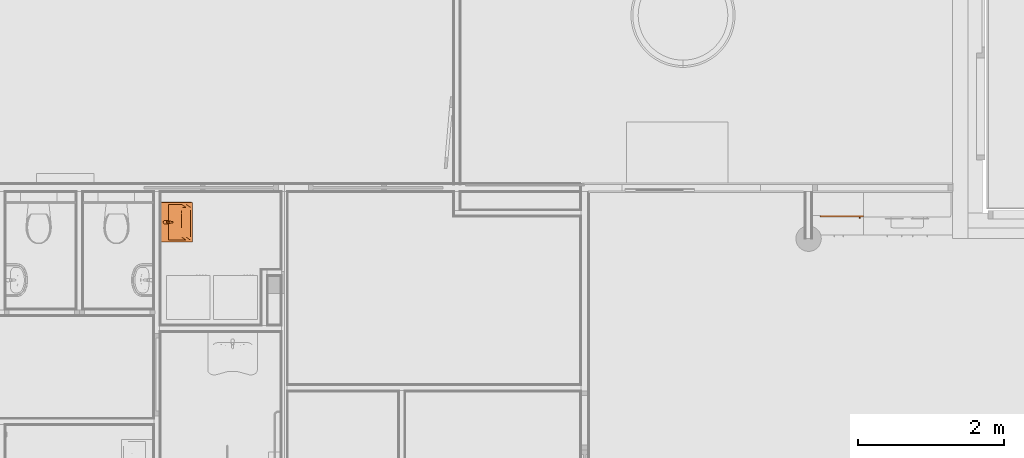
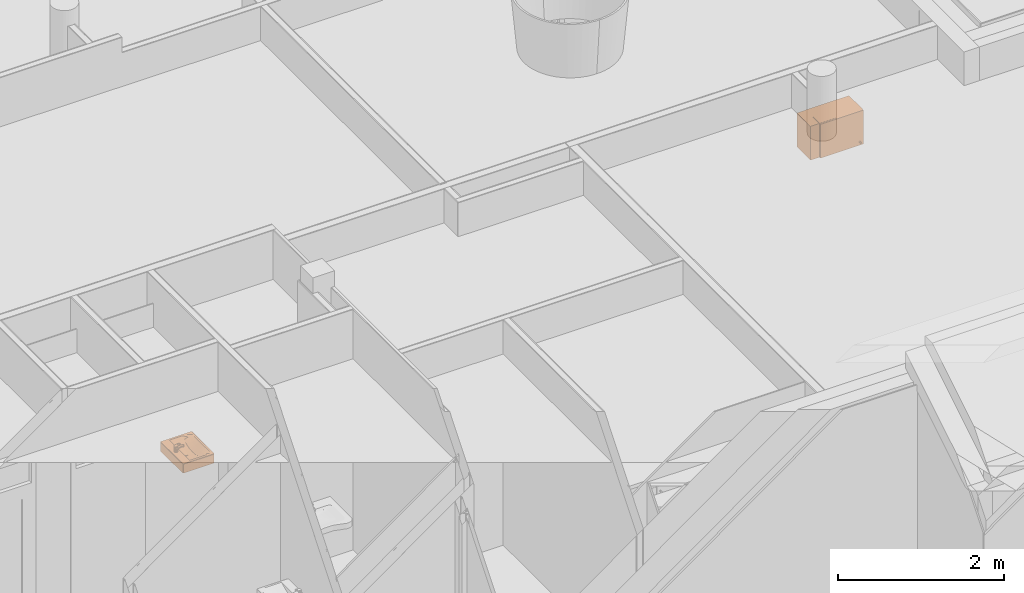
# One storey, part 165 of 167: 2 proxies.
"""IFC2X3 building model written with IfcOpenShell, lengths in millimetres."""

from ifc_helpers import new_model, entity, si_unit, converted_unit, derived_unit, money_unit, direction, frame, origin_with_axes, place, context, subcontext, project, spatial, open_shell, faceted_brep, surface_model, type_object, element, save


model = new_model("IFC2X3")

# Units and contexts
model_context = context("Model", 3, precision=0.01, world=origin_with_axes(), true_north=direction((0.0, 1.0)))
plan_context = context("Plan", 3, precision=0.01, world=origin_with_axes(), true_north=direction((0.0, 1.0)))
body_context = subcontext(model_context, "Body", "Model", "MODEL_VIEW")
ifc_project = project(units=[si_unit("LENGTHUNIT", "METRE", prefix="MILLI"), si_unit("AREAUNIT", "SQUARE_METRE"), si_unit("VOLUMEUNIT", "CUBIC_METRE"), converted_unit("PLANEANGLEUNIT", "DEGREE", entity("IfcPlaneAngleMeasure", 0.0174532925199), si_unit("PLANEANGLEUNIT", "RADIAN"), dimensions=[0, 0, 0, 0, 0, 0, 0]), si_unit("SOLIDANGLEUNIT", "STERADIAN"), money_unit("EUR"), converted_unit("TIMEUNIT", "Year", entity("IfcTimeMeasure", 31556926.0), si_unit("TIMEUNIT", "SECOND"), dimensions=[0, 0, 1, 0, 0, 0, 0]), si_unit("MASSUNIT", "GRAM", prefix="KILO"), si_unit("THERMODYNAMICTEMPERATUREUNIT", "DEGREE_CELSIUS"), si_unit("LUMINOUSINTENSITYUNIT", "LUMEN"), si_unit("ENERGYUNIT", "JOULE", prefix="MEGA"), derived_unit("THERMALCONDUCTANCEUNIT", [(si_unit("POWERUNIT", "WATT"), 1), (si_unit("LENGTHUNIT", "METRE"), -1), (si_unit("THERMODYNAMICTEMPERATUREUNIT", "KELVIN"), -1)]), derived_unit("SPECIFICHEATCAPACITYUNIT", [(si_unit("ENERGYUNIT", "JOULE"), 1), (si_unit("MASSUNIT", "GRAM", prefix="KILO"), -1), (si_unit("THERMODYNAMICTEMPERATUREUNIT", "KELVIN"), -1)]), derived_unit("MASSDENSITYUNIT", [(si_unit("MASSUNIT", "GRAM", prefix="KILO"), 1), (si_unit("VOLUMEUNIT", "CUBIC_METRE"), -1)])], contexts=[model_context, plan_context])

# Site, building, storey
site_placement = place(None, origin_with_axes())
site = spatial("IfcSite", under=ifc_project, at=site_placement, Name="Site", CompositionType="ELEMENT")
building_placement = place(site_placement, origin_with_axes())
building = spatial("IfcBuilding", under=site, at=building_placement, Name="Naam gebouw", CompositionType="ELEMENT")
storey_placement = place(building_placement, origin_with_axes())
storey = spatial("IfcBuildingStorey", under=building, at=storey_placement, Name="Begane grond", CompositionType="ELEMENT", Elevation=0.0)

# Proxies
building_element_proxy_type_1 = type_object("IfcBuildingElementProxyType", Name="Wasbak 24", PredefinedType="NOTDEFINED")
proxy_1_placement = place(storey_placement, frame((27100.0, 36825.9506673, 90.0), z_axis=(0.0, 0.0, 1.0), x_axis=(0.0, 1.0, 0.0)))
element("IfcBuildingElementProxy", 1, at=proxy_1_placement, inside=storey, type_object=building_element_proxy_type_1, Name="__Object-x", context=body_context, shape_type="SurfaceModel", body=[
    faceted_brep([(260.0, -440.0, 865.0), (-260.0, -440.0, 865.0), (-267.5, -437.990381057, 865.0), (-272.990381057, -432.5, 865.0), (-275.0, -425.0, 865.0), (-275.0, -15.0, 865.0), (-272.990381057, -7.5, 865.0), (-267.5, -2.00961894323, 865.0), (-260.0, 0.0, 865.0), (260.0, 0.0, 865.0), (267.5, -2.00961894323, 865.0), (272.990381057, -7.5, 865.0), (275.0, -15.0, 865.0), (275.0, -425.0, 865.0), (272.990381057, -432.5, 865.0), (267.5, -437.990381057, 865.0), (-245.0, -410.0, 865.0), (245.0, -410.0, 865.0), (245.0, -110.0, 865.0), (-245.0, -110.0, 865.0), (259.999999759, -440.00000039, 995.0), (-259.999999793, -440.00000039, 995.0), (-267.500000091, -437.990381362, 995.0), (-272.990381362, -432.500000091, 995.0), (-275.00000039, -424.999999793, 995.0), (-275.00000039, -14.9999996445, 995.0), (-272.990381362, -7.50000027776, 995.0), (-267.500000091, -2.00961900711, 995.0), (-259.999999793, 2.02655670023e-08, 995.0), (259.999999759, 2.02655670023e-08, 995.0), (267.500000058, -2.00961900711, 995.0), (272.990381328, -7.50000027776, 995.0), (275.000000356, -14.9999996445, 995.0), (275.000000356, -424.999999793, 995.0), (272.990381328, -432.500000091, 995.0), (267.500000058, -437.990381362, 995.0), (-245.0, -410.0, 999.999999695), (245.0, -410.0, 999.999999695), (245.0, -110.0, 999.999999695), (-245.0, -110.0, 999.999999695), (259.977570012, -439.829629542, 996.294095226), (-259.977570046, -439.829629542, 996.294095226), (-267.411809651, -437.837631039, 996.294095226), (-272.837631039, -432.411809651, 996.294095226), (-274.829629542, -424.977570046, 996.294095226), (-274.829629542, -15.0224293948, 996.294095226), (-272.837631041, -7.58819072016, 996.294095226), (-267.411809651, -2.16236933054, 996.294095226), (-259.977570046, -0.170370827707, 996.294095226), (259.977570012, -0.170370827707, 996.294095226), (267.411809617, -2.16236933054, 996.294095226), (272.837631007, -7.58819072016, 996.294095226), (274.829629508, -15.0224293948, 996.294095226), (274.829629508, -424.977570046, 996.294095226), (272.837631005, -432.411809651, 996.294095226), (267.411809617, -437.837631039, 996.294095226), (-259.34173768, -4.99999712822, 999.999999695), (-264.911811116, -6.49249381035, 999.999999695), (-268.507506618, -10.0881893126, 999.999999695), (-270.000003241, -15.6582618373, 999.999999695), (-270.000003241, -424.34173768, 999.999999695), (-268.507506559, -429.911811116, 999.999999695), (-264.911811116, -433.507506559, 999.999999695), (-259.34173768, -435.000003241, 999.999999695), (259.341737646, -435.000003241, 999.999999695), (264.911811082, -433.507506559, 999.999999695), (268.507506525, -429.911811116, 999.999999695), (270.000003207, -424.34173768, 999.999999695), (270.000003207, -15.6582618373, 999.999999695), (268.507506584, -10.0881893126, 999.999999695), (264.911811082, -6.49249381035, 999.999999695), (259.341737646, -4.99999712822, 999.999999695), (259.807199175, -438.535534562, 998.535533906), (-259.807199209, -438.535534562, 998.535533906), (-266.741936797, -436.677377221, 998.535533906), (-271.677377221, -431.741936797, 998.535533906), (-273.535534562, -424.807199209, 998.535533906), (-273.535534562, -15.1928002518, 998.535533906), (-271.677377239, -8.2580635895, 998.535533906), (-266.741936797, -3.32262314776, 998.535533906), (-259.807199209, -1.46446580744, 998.535533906), (259.807199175, -1.46446580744, 998.535533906), (266.741936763, -3.32262314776, 998.535533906), (271.677377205, -8.2580635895, 998.535533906), (273.535534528, -15.1928002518, 998.535533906), (273.535534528, -424.807199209, 998.535533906), (271.677377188, -431.741936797, 998.535533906), (266.741936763, -436.677377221, 998.535533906), (-265.581682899, -5.33224184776, 999.829629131), (-259.512108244, -3.70590421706, 999.829629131), (-269.667758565, -9.41831751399, 999.829629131), (-271.294096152, -15.4878912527, 999.829629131), (-271.294096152, -424.512108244, 999.829629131), (-269.667758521, -430.581682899, 999.829629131), (-265.581682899, -434.667758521, 999.829629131), (-259.512108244, -436.294096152, 999.829629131), (259.51210821, -436.294096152, 999.829629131), (265.581682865, -434.667758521, 999.829629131), (269.667758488, -430.581682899, 999.829629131), (271.294096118, -424.512108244, 999.829629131), (271.294096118, -15.4878912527, 999.829629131), (269.667758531, -9.41831751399, 999.829629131), (265.581682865, -5.33224184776, 999.829629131), (259.51210821, -3.70590421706, 999.829629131)], [[[0, 1, 2, 3, 4, 5, 6, 7, 8, 9, 10, 11, 12, 13, 14, 15], [16, 17, 18, 19]], [[0, 20, 21, 1]], [[1, 21, 22, 2]], [[2, 22, 23, 3]], [[3, 23, 24, 4]], [[4, 24, 25, 5]], [[5, 25, 26, 6]], [[6, 26, 27, 7]], [[7, 27, 28, 8]], [[8, 28, 29, 9]], [[9, 29, 30, 10]], [[10, 30, 31, 11]], [[11, 31, 32, 12]], [[12, 32, 33, 13]], [[13, 33, 34, 14]], [[14, 34, 35, 15]], [[15, 35, 20, 0]], [[36, 37, 17, 16]], [[37, 38, 18, 17]], [[38, 39, 19, 18]], [[39, 36, 16, 19]], [[20, 40, 41, 21]], [[21, 41, 42, 22]], [[22, 42, 43, 23]], [[23, 43, 44, 24]], [[24, 44, 45, 25]], [[25, 45, 46, 26]], [[26, 46, 47, 27]], [[27, 47, 48, 28]], [[28, 48, 49, 29]], [[29, 49, 50, 30]], [[30, 50, 51, 31]], [[31, 51, 52, 32]], [[32, 52, 53, 33]], [[33, 53, 54, 34]], [[34, 54, 55, 35]], [[35, 55, 40, 20]], [[56, 57, 58, 59, 60, 61, 62, 63, 64, 65, 66, 67, 68, 69, 70, 71], [36, 39, 38, 37]], [[40, 72, 73, 41]], [[41, 73, 74, 42]], [[42, 74, 75, 43]], [[43, 75, 76, 44]], [[44, 76, 77, 45]], [[45, 77, 78, 46]], [[46, 78, 79, 47]], [[47, 79, 80, 48]], [[48, 80, 81, 49]], [[49, 81, 82, 50]], [[50, 82, 83, 51]], [[51, 83, 84, 52]], [[52, 84, 85, 53]], [[53, 85, 86, 54]], [[54, 86, 87, 55]], [[55, 87, 72, 40]], [[88, 57, 56, 89]], [[90, 58, 57, 88]], [[91, 59, 58, 90]], [[92, 60, 59, 91]], [[93, 61, 60, 92]], [[94, 62, 61, 93]], [[95, 63, 62, 94]], [[96, 64, 63, 95]], [[97, 65, 64, 96]], [[98, 66, 65, 97]], [[99, 67, 66, 98]], [[100, 68, 67, 99]], [[101, 69, 68, 100]], [[102, 70, 69, 101]], [[103, 71, 70, 102]], [[89, 56, 71, 103]], [[72, 96, 95, 73]], [[73, 95, 94, 74]], [[74, 94, 93, 75]], [[75, 93, 92, 76]], [[76, 92, 91, 77]], [[77, 91, 90, 78]], [[78, 90, 88, 79]], [[79, 88, 89, 80]], [[80, 89, 103, 81]], [[81, 103, 102, 82]], [[82, 102, 101, 83]], [[83, 101, 100, 84]], [[84, 100, 99, 85]], [[85, 99, 98, 86]], [[86, 98, 97, 87]], [[87, 97, 96, 72]]]),
    faceted_brep([(-245.0, -410.0, 865.0), (-245.0, -110.0, 865.0), (245.0, -110.0, 865.0), (245.0, -410.0, 865.0), (12.5, -221.641635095, 865.0), (21.6506350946, -212.491, 865.0), (25.0, -199.991, 865.0), (21.6506350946, -187.491, 865.0), (12.5, -178.340364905, 865.0), (0.0, -174.991, 865.0), (-12.5, -178.340364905, 865.0), (-21.6506350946, -187.491, 865.0), (-25.0, -199.991, 865.0), (-21.6506350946, -212.491, 865.0), (-12.5, -221.641635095, 865.0), (0.0, -224.991, 865.0), (-245.0, -290.0, 1000.0), (-245.0, -230.0, 1000.0), (-245.0, -170.0, 1000.0), (-245.0, -110.0, 1000.0), (-245.0, -410.0, 1000.0), (-245.0, -350.0, 1000.0), (122.5, -110.0, 922.129168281), (163.333333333, -110.0, 940.432026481), (204.166666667, -110.0, 965.689615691), (245.0, -110.0, 1000.0), (-204.166666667, -110.0, 965.689615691), (-163.333333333, -110.0, 940.432026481), (-122.5, -110.0, 922.129168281), (-81.6666666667, -110.0, 909.657569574), (-40.8333333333, -110.0, 902.389246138), (0.0, -110.0, 900.0), (40.8333333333, -110.0, 902.389246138), (81.6666666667, -110.0, 909.657569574), (245.0, -230.0, 1000.0), (245.0, -290.0, 1000.0), (245.0, -350.0, 1000.0), (245.0, -410.0, 1000.0), (245.0, -170.0, 1000.0), (-122.5, -410.0, 1000.0), (-163.333333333, -410.0, 1000.0), (-204.166666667, -410.0, 1000.0), (204.166666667, -410.0, 1000.0), (163.333333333, -410.0, 1000.0), (122.5, -410.0, 1000.0), (81.6666666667, -410.0, 1000.0), (40.8333333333, -410.0, 1000.0), (0.0, -410.0, 1000.0), (-40.8333333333, -410.0, 1000.0), (-81.6666666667, -410.0, 1000.0), (12.5, -221.641635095, 900.731401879), (21.6506350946, -212.491, 901.266825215), (25.0, -199.991, 901.462803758), (21.6506350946, -187.491, 901.266825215), (12.5, -178.340364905, 900.731401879), (0.0, -174.991, 900.0), (-12.5, -178.340364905, 900.731401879), (-21.6506350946, -187.491, 901.266825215), (-25.0, -199.991, 901.462803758), (-21.6506350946, -212.491, 901.266825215), (-12.5, -221.641635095, 900.731401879), (0.0, -224.991, 900.0), (-204.166666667, -230.0, 965.689615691), (-204.166666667, -170.0, 965.689615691), (-204.166666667, -350.0, 986.166287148), (-204.166666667, -290.0, 970.594758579), (163.333333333, -170.0, 940.432026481), (122.5, -170.0, 922.129168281), (204.166666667, -170.0, 965.689615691), (-163.333333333, -170.0, 940.432026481), (-122.5, -170.0, 922.129168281), (-81.6666666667, -170.0, 909.657569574), (-40.8333333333, -170.0, 902.389246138), (0.0, -170.0, 900.0), (40.8333333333, -170.0, 902.389246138), (81.6666666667, -170.0, 909.657569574), (204.166666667, -290.0, 970.594758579), (204.166666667, -350.0, 986.166287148), (204.166666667, -230.0, 965.689615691), (-122.5, -350.0, 966.539843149), (-163.333333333, -350.0, 975.056802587), (163.333333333, -350.0, 975.056802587), (122.5, -350.0, 966.539843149), (81.6666666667, -350.0, 960.520155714), (40.8333333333, -350.0, 956.933224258), (0.0, -350.0, 955.741663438), (-40.8333333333, -350.0, 956.933224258), (-81.6666666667, -350.0, 960.520155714), (0.0, -230.0, 900.0), (40.8333333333, -230.0, 902.389246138), (-40.8333333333, -230.0, 902.389246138), (-163.333333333, -230.0, 940.432026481), (163.333333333, -230.0, 940.432026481), (122.5, -230.0, 922.129168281), (-122.5, -230.0, 922.129168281), (-81.6666666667, -230.0, 909.657569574), (81.6666666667, -230.0, 909.657569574), (0.0, -290.0, 912.025576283), (-40.8333333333, -290.0, 914.19632473), (-163.333333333, -290.0, 948.375008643), (122.5, -290.0, 932.026603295), (163.333333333, -290.0, 948.375008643), (-122.5, -290.0, 932.026603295), (-81.6666666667, -290.0, 920.783680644), (40.8333333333, -290.0, 914.19632473), (81.6666666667, -290.0, 920.783680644)], [[[0, 1, 2, 3], [4, 5, 6, 7, 8, 9, 10, 11, 12, 13, 14, 15]], [[16, 17, 18, 19, 1, 0, 20, 21]], [[22, 23, 24, 25, 2, 1, 19, 26, 27, 28, 29, 30, 31, 32, 33]], [[34, 35, 36, 37, 3, 2, 25, 38]], [[39, 40, 41, 20, 0, 3, 37, 42, 43, 44, 45, 46, 47, 48, 49]], [[50, 51, 5, 4]], [[51, 52, 6, 5]], [[52, 53, 7, 6]], [[53, 54, 8, 7]], [[54, 55, 9, 8]], [[55, 56, 10, 9]], [[56, 57, 11, 10]], [[57, 58, 12, 11]], [[58, 59, 13, 12]], [[59, 60, 14, 13]], [[60, 61, 15, 14]], [[61, 50, 4, 15]], [[16, 62, 17]], [[62, 63, 18, 17]], [[63, 26, 19, 18]], [[20, 64, 21]], [[21, 65, 16]], [[66, 23, 22, 67]], [[68, 24, 23, 66]], [[38, 25, 24, 68]], [[69, 27, 26, 63]], [[70, 28, 27, 69]], [[71, 29, 28, 70]], [[72, 30, 29, 71]], [[73, 31, 30, 72]], [[74, 32, 31, 73]], [[75, 33, 32, 74]], [[67, 22, 33, 75]], [[76, 35, 34]], [[77, 36, 35]], [[42, 37, 36]], [[34, 38, 68, 78]], [[40, 39, 79]], [[41, 40, 80]], [[20, 41, 64]], [[43, 42, 77]], [[44, 43, 81]], [[45, 44, 82]], [[46, 45, 83]], [[47, 46, 84]], [[48, 47, 85]], [[49, 48, 86]], [[39, 49, 87]], [[54, 53, 52, 51, 50, 61, 88, 89, 74, 73, 55]], [[56, 55, 73, 72, 90, 88, 61, 60, 59, 58, 57]], [[16, 65, 62]], [[91, 69, 63, 62]], [[21, 64, 65]], [[92, 66, 67, 93]], [[78, 68, 66, 92]], [[94, 70, 69, 91]], [[95, 71, 70, 94]], [[90, 72, 71, 95]], [[96, 75, 74, 89]], [[93, 67, 75, 96]], [[77, 35, 76]], [[76, 34, 78]], [[42, 36, 77]], [[39, 87, 79]], [[40, 79, 80]], [[41, 80, 64]], [[43, 77, 81]], [[44, 81, 82]], [[45, 82, 83]], [[46, 83, 84]], [[47, 84, 85]], [[48, 85, 86]], [[49, 86, 87]], [[97, 89, 88]], [[98, 88, 90]], [[65, 91, 62]], [[64, 99, 65]], [[100, 92, 93]], [[101, 78, 92]], [[99, 94, 91]], [[102, 95, 94]], [[103, 90, 95]], [[104, 96, 89]], [[105, 93, 96]], [[81, 77, 76]], [[101, 76, 78]], [[79, 87, 103]], [[80, 79, 102]], [[64, 80, 99]], [[82, 81, 101]], [[83, 82, 100]], [[84, 83, 105]], [[85, 84, 104]], [[86, 85, 97]], [[87, 86, 98]], [[97, 104, 89]], [[98, 97, 88]], [[103, 98, 90]], [[65, 99, 91]], [[100, 101, 92]], [[105, 100, 93]], [[99, 102, 94]], [[102, 103, 95]], [[104, 105, 96]], [[81, 76, 101]], [[87, 98, 103]], [[79, 103, 102]], [[80, 102, 99]], [[82, 101, 100]], [[83, 100, 105]], [[84, 105, 104]], [[85, 104, 97]], [[86, 97, 98]]]),
    faceted_brep([(21.6506350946, -212.491, 900.0), (12.5, -221.641635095, 900.0), (0.0, -224.991, 900.0), (-12.5, -221.641635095, 900.0), (-21.6506350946, -212.491, 900.0), (-25.0, -199.991, 900.0), (-21.6506350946, -187.491, 900.0), (-12.5, -178.340364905, 900.0), (0.0, -174.991, 900.0), (12.5, -178.340364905, 900.0), (21.6506350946, -187.491, 900.0), (25.0, -199.991, 900.0), (21.6506350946, -212.491, 905.0), (12.5, -221.641635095, 905.0), (0.0, -224.991, 905.0), (-12.5, -221.641635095, 905.0), (-21.6506350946, -212.491, 905.0), (-25.0, -199.991, 905.0), (-21.6506350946, -187.491, 905.0), (-12.5, -178.340364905, 905.0), (0.0, -174.991, 905.0), (12.5, -178.340364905, 905.0), (21.6506350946, -187.491, 905.0), (25.0, -199.991, 905.0)], [[[0, 1, 2, 3, 4, 5, 6, 7, 8, 9, 10, 11]], [[1, 0, 12, 13]], [[2, 1, 13, 14]], [[3, 2, 14, 15]], [[4, 3, 15, 16]], [[5, 4, 16, 17]], [[6, 5, 17, 18]], [[7, 6, 18, 19]], [[8, 7, 19, 20]], [[9, 8, 20, 21]], [[10, 9, 21, 22]], [[11, 10, 22, 23]], [[0, 11, 23, 12]], [[12, 23, 22, 21, 20, 19, 18, 17, 16, 15, 14, 13]]]),
    surface_model("IfcShellBasedSurfaceModel", [(0.0, -199.991, 907.0), (0.0, -187.369094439, 906.49757372), (-6.31095278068, -189.06010914, 906.49757372), (6.31095278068, -189.06010914, 906.49757372), (0.0, -174.991, 905.0), (-12.5, -178.340364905, 905.0), (-10.9308908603, -193.680047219, 906.49757372), (10.9308908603, -193.680047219, 906.49757372), (12.5, -178.340364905, 905.0), (-21.6506350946, -187.491, 905.0), (-12.6219055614, -199.991, 906.49757372), (12.6219055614, -199.991, 906.49757372), (21.6506350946, -187.491, 905.0), (-25.0, -199.991, 905.0), (-10.9308908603, -206.301952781, 906.49757372), (10.9308908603, -206.301952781, 906.49757372), (25.0, -199.991, 905.0), (-21.6506350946, -212.491, 905.0), (-6.31095278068, -210.92189086, 906.49757372), (6.31095278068, -210.92189086, 906.49757372), (21.6506350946, -212.491, 905.0), (-12.5, -221.641635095, 905.0), (0.0, -212.612905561, 906.49757372), (12.5, -221.641635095, 905.0), (0.0, -224.991, 905.0)], [open_shell([[[0, 1, 2]], [[0, 3, 1]], [[2, 1, 4, 5]], [[0, 2, 6]], [[0, 7, 3]], [[1, 3, 8, 4]], [[6, 2, 5, 9]], [[0, 6, 10]], [[0, 11, 7]], [[3, 7, 12, 8]], [[10, 6, 9, 13]], [[0, 10, 14]], [[0, 15, 11]], [[7, 11, 16, 12]], [[14, 10, 13, 17]], [[0, 14, 18]], [[0, 19, 15]], [[11, 15, 20, 16]], [[18, 14, 17, 21]], [[0, 18, 22]], [[0, 22, 19]], [[15, 19, 23, 20]], [[22, 18, 21, 24]], [[19, 22, 24, 23]]])]),
    faceted_brep([(12.5, -38.3493649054, 1000.0), (0.0, -35.0, 1000.0), (0.0, -38.7980769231, 1075.96153846), (10.5873227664, -41.6622190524, 1076.50708934), (21.6506350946, -47.5, 1000.0), (25.0, -60.0, 1000.0), (21.6506350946, -72.5, 1000.0), (12.5, -81.6506350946, 1000.0), (0.0, -85.0, 1000.0), (-12.5, -81.6506350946, 1000.0), (-21.6506350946, -72.5, 1000.0), (-25.0, -60.0, 1000.0), (-21.6506350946, -47.5, 1000.0), (-12.5, -38.3493649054, 1000.0), (-10.5873227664, -41.6622190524, 1076.50708934), (-18.2735503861, -49.4497607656, 1077.99043062), (-21.0, -60.0, 1080.0), (-18.1003413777, -70.4502369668, 1081.99052133), (-10.4141059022, -78.037760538, 1083.43576391), (0.0, -80.8018867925, 1083.96226415), (10.4141059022, -78.037760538, 1083.43576391), (18.1003413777, -70.4502369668, 1081.99052133), (21.0, -60.0, 1080.0), (18.2735503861, -49.4497607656, 1077.99043062)], [[[0, 1, 2, 3]], [[0, 4, 5, 6, 7, 8, 9, 10, 11, 12, 13, 1]], [[1, 13, 14, 2]], [[3, 2, 14, 15, 16, 17, 18, 19, 20, 21, 22, 23]], [[4, 0, 3, 23]], [[5, 4, 23, 22]], [[6, 5, 22, 21]], [[7, 6, 21, 20]], [[8, 7, 20, 19]], [[9, 8, 19, 18]], [[10, 9, 18, 17]], [[11, 10, 17, 16]], [[12, 11, 16, 15]], [[13, 12, 15, 14]]]),
    faceted_brep([(9.0, -163.0, 1035.0), (7.79422863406, -158.5, 1035.0), (7.79422863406, -158.5, 1045.0), (9.0, -163.0, 1045.0), (7.79422863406, -167.5, 1035.0), (4.5, -170.794228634, 1035.0), (0.0, -172.0, 1035.0), (-4.5, -170.794228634, 1035.0), (-7.79422863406, -167.5, 1035.0), (-9.0, -163.0, 1035.0), (-7.79422863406, -158.5, 1035.0), (-4.5, -155.205771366, 1035.0), (0.0, -154.0, 1035.0), (4.5, -155.205771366, 1035.0), (4.5, -155.205771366, 1045.0), (0.0, -154.0, 1045.0), (-4.5, -155.205771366, 1045.0), (-7.79422863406, -158.5, 1045.0), (-9.0, -163.0, 1045.0), (-7.79422863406, -167.5, 1045.0), (-4.5, -170.794228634, 1045.0), (0.0, -172.0, 1045.0), (4.5, -170.794228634, 1045.0), (7.79422863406, -167.5, 1045.0)], [[[0, 1, 2, 3]], [[0, 4, 5, 6, 7, 8, 9, 10, 11, 12, 13, 1]], [[1, 13, 14, 2]], [[3, 2, 14, 15, 16, 17, 18, 19, 20, 21, 22, 23]], [[4, 0, 3, 23]], [[5, 4, 23, 22]], [[6, 5, 22, 21]], [[7, 6, 21, 20]], [[8, 7, 20, 19]], [[9, 8, 19, 18]], [[10, 9, 18, 17]], [[11, 10, 17, 16]], [[12, 11, 16, 15]], [[13, 12, 15, 14]]]),
    faceted_brep([(-12.8717176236, -39.7436961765, 1060.0), (-21.727805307, -49.8067946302, 1060.0), (-23.8054, -63.0499, 1060.0), (-10.911990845, -164.388371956, 1060.0), (-9.02887546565, -169.283194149, 1060.0), (-5.09332449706, -172.749726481, 1060.0), (3.62679860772e-05, -173.99996004, 1060.0), (5.09338878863, -172.749692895, 1060.0), (9.02891689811, -169.283134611, 1060.0), (10.912, -164.3883, 1060.0), (23.8053997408, -63.0499020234, 1060.0), (21.7278061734, -49.806796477, 1060.0), (12.8717193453, -39.7436972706, 1060.0), (1.01998896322e-06, -36.000021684, 1060.0), (11.0, -40.9474411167, 1060.0), (19.0525588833, -49.0, 1060.0), (22.0, -60.0, 1060.0), (19.0525588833, -71.0, 1060.0), (11.0, -79.0525588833, 1060.0), (0.0, -82.0, 1060.0), (-11.0, -79.0525588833, 1060.0), (-19.0525588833, -71.0, 1060.0), (-22.0, -60.0, 1060.0), (-19.0525588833, -49.0, 1060.0), (-11.0, -40.9474411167, 1060.0), (0.0, -38.0, 1060.0), (-21.727805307, -49.8067946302, 1045.0), (-12.8717176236, -39.7436961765, 1045.0), (-23.8054, -63.0499, 1045.0), (-10.911990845, -164.388371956, 1045.0), (-9.02887546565, -169.283194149, 1045.0), (-5.09332449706, -172.749726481, 1045.0), (3.62679860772e-05, -173.99996004, 1045.0), (5.09338878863, -172.749692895, 1045.0), (9.02891689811, -169.283134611, 1045.0), (10.912, -164.3883, 1045.0), (23.8053997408, -63.0499020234, 1045.0), (21.7278061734, -49.806796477, 1045.0), (12.8717193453, -39.7436972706, 1045.0), (1.01998896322e-06, -36.000021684, 1045.0), (11.375, -40.2979220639, 1045.0), (19.7020779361, -48.625, 1045.0), (22.75, -60.0, 1045.0), (19.7020779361, -71.375, 1045.0), (11.375, -79.7020779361, 1045.0), (0.0, -82.75, 1045.0), (-11.375, -79.7020779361, 1045.0), (-19.7020779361, -71.375, 1045.0), (-22.75, -60.0, 1045.0), (-19.7020779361, -48.625, 1045.0), (-11.375, -40.2979220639, 1045.0), (0.0, -37.25, 1045.0)], [[[0, 1, 2, 3, 4, 5, 6, 7, 8, 9, 10, 11, 12, 13], [14, 15, 16, 17, 18, 19, 20, 21, 22, 23, 24, 25]], [[26, 1, 0, 27]], [[28, 2, 1, 26]], [[29, 3, 2, 28]], [[30, 4, 3, 29]], [[31, 5, 4, 30]], [[32, 6, 5, 31]], [[33, 7, 6, 32]], [[34, 8, 7, 33]], [[35, 9, 8, 34]], [[36, 10, 9, 35]], [[37, 11, 10, 36]], [[38, 12, 11, 37]], [[39, 13, 12, 38]], [[27, 0, 13, 39]], [[40, 41, 15, 14]], [[41, 42, 16, 15]], [[42, 43, 17, 16]], [[43, 44, 18, 17]], [[44, 45, 19, 18]], [[20, 19, 45, 46]], [[21, 20, 46, 47]], [[22, 21, 47, 48]], [[23, 22, 48, 49]], [[24, 23, 49, 50]], [[50, 51, 25, 24]], [[51, 40, 14, 25]], [[32, 31, 30, 29, 28, 26, 27, 39, 38, 37, 36, 35, 34, 33], [44, 43, 42, 41, 40, 51, 50, 49, 48, 47, 46, 45]]]),
    faceted_brep([(23.893, -61.6925693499, 1080.32239416), (21.2964214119, -49.225281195, 1077.94767261), (21.2964214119, -48.4768327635, 1081.87702687), (23.893, -60.9441209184, 1084.25174843), (20.9459364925, -101.836702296, 1087.96889568), (17.6631391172, -111.514366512, 1089.81226029), (10.0614352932, -118.463746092, 1091.13595164), (-0.000442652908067, -120.98561192, 1091.61630703), (-10.0622123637, -118.463329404, 1091.13587227), (-17.6636179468, -111.513635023, 1089.81212096), (-20.946, -101.835834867, 1087.96873045), (-23.893020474, -61.6922904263, 1080.32234103), (-21.2962910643, -49.2250325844, 1077.94762525), (-12.4716815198, -39.9088025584, 1076.17310525), (0.000142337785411, -36.4680354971, 1075.51772105), (12.4719245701, -39.9089481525, 1076.17313298), (14.0, -85.540802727, 1084.86491481), (-14.0, -85.540802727, 1084.86491481), (-14.0, -100.356432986, 1087.68693962), (-12.124355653, -107.232802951, 1088.99672437), (-7.0, -112.266655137, 1089.95555336), (0.0, -114.109172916, 1090.30650913), (7.0, -112.266655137, 1089.95555336), (12.124355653, -107.232802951, 1088.99672437), (14.0, -100.356432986, 1087.68693962), (12.4719245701, -39.1604997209, 1080.10248725), (0.000142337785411, -35.7195870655, 1079.44707531), (-12.4716815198, -39.1603541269, 1080.10245951), (-21.2962910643, -48.4765841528, 1081.87697952), (-23.893020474, -60.9438419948, 1084.2516953), (-20.946, -101.087386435, 1091.89808472), (-17.6636179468, -110.765186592, 1093.74147522), (-10.0622123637, -117.714880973, 1095.06522653), (-0.000442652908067, -120.237163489, 1095.5456613), (10.0614352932, -117.71529766, 1095.0653059), (17.6631391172, -110.76591808, 1093.74161455), (20.9459364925, -101.088253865, 1091.89824994), (14.0, -84.7923542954, 1088.79426907), (14.0, -99.6079845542, 1091.61629388), (12.124355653, -106.484354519, 1092.92607864), (7.0, -111.518206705, 1093.88490763), (0.0, -113.360724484, 1094.23586339), (-7.0, -111.518206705, 1093.88490763), (-12.124355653, -106.484354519, 1092.92607864), (-14.0, -99.6079845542, 1091.61629388), (-14.0, -84.7923542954, 1088.79426907)], [[[0, 1, 2, 3]], [[0, 4, 5, 6, 7, 8, 9, 10, 11, 12, 13, 14, 15, 1], [16, 17, 18, 19, 20, 21, 22, 23, 24]], [[1, 15, 25, 2]], [[3, 2, 25, 26, 27, 28, 29, 30, 31, 32, 33, 34, 35, 36], [37, 38, 39, 40, 41, 42, 43, 44, 45]], [[4, 0, 3, 36]], [[5, 4, 36, 35]], [[6, 5, 35, 34]], [[7, 6, 34, 33]], [[8, 7, 33, 32]], [[9, 8, 32, 31]], [[10, 9, 31, 30]], [[11, 10, 30, 29]], [[12, 11, 29, 28]], [[13, 12, 28, 27]], [[14, 13, 27, 26]], [[15, 14, 26, 25]], [[17, 16, 37, 45]], [[18, 17, 45, 44]], [[19, 18, 44, 43]], [[20, 19, 43, 42]], [[21, 20, 42, 41]], [[22, 21, 41, 40]], [[23, 22, 40, 39]], [[24, 23, 39, 38]], [[16, 24, 38, 37]]]),
])
building_element_proxy_type_2 = type_object("IfcBuildingElementProxyType", Name="Kast wand 1D 24", PredefinedType="NOTDEFINED")
proxy_2_placement = place(storey_placement, frame((36028.3441359, 36900.000006, 700.07308756), z_axis=(0.0, 0.0, 1.0), x_axis=(1.0, 0.0, 0.0)))
element("IfcBuildingElementProxy", 2, at=proxy_2_placement, inside=storey, type_object=building_element_proxy_type_2, Name="__Object-x", context=body_context, shape_type="Brep", body=[
    faceted_brep([(125.0, 20.0, 1980.0), (145.0, 20.0, 1980.0), (145.0, 20.0, 2000.0), (125.0, 20.0, 2000.0), (125.0, 350.0, 1980.0), (145.0, 350.0, 1980.0), (705.0, 350.0, 1980.0), (725.0, 350.0, 1980.0), (725.0, 20.0, 1980.0), (705.0, 20.0, 1980.0), (705.0, 20.0, 2000.0), (725.0, 20.0, 2000.0), (725.0, 350.0, 2000.0), (705.0, 350.0, 2000.0), (145.0, 350.0, 2000.0), (125.0, 350.0, 2000.0)], [[[0, 1, 2, 3]], [[0, 4, 5, 6, 7, 8, 9, 1]], [[1, 9, 10, 2]], [[3, 2, 10, 11, 12, 13, 14, 15]], [[4, 0, 3, 15]], [[5, 4, 15, 14]], [[6, 5, 14, 13]], [[7, 6, 13, 12]], [[8, 7, 12, 11]], [[9, 8, 11, 10]]]),
    faceted_brep([(125.0, 20.0, 1500.0), (145.0, 20.0, 1500.0), (145.0, 20.0, 1520.0), (125.0, 20.0, 1520.0), (125.0, 350.0, 1500.0), (145.0, 350.0, 1500.0), (705.0, 350.0, 1500.0), (725.0, 350.0, 1500.0), (725.0, 20.0, 1500.0), (705.0, 20.0, 1500.0), (705.0, 20.0, 1520.0), (725.0, 20.0, 1520.0), (725.0, 350.0, 1520.0), (705.0, 350.0, 1520.0), (145.0, 350.0, 1520.0), (125.0, 350.0, 1520.0)], [[[0, 1, 2, 3]], [[0, 4, 5, 6, 7, 8, 9, 1]], [[1, 9, 10, 2]], [[3, 2, 10, 11, 12, 13, 14, 15]], [[4, 0, 3, 15]], [[5, 4, 15, 14]], [[6, 5, 14, 13]], [[7, 6, 13, 12]], [[8, 7, 12, 11]], [[9, 8, 11, 10]]]),
    faceted_brep([(125.0, 20.0, 1520.0), (145.0, 20.0, 1520.0), (145.0, 20.0, 1980.0), (125.0, 20.0, 1980.0), (125.0, 350.0, 1520.0), (725.0, 350.0, 1520.0), (725.0, 20.0, 1520.0), (705.0, 20.0, 1520.0), (705.0, 330.0, 1520.0), (145.0, 330.0, 1520.0), (145.0, 330.0, 1980.0), (705.0, 330.0, 1980.0), (705.0, 20.0, 1980.0), (725.0, 20.0, 1980.0), (725.0, 350.0, 1980.0), (125.0, 350.0, 1980.0)], [[[0, 1, 2, 3]], [[0, 4, 5, 6, 7, 8, 9, 1]], [[1, 9, 10, 2]], [[3, 2, 10, 11, 12, 13, 14, 15]], [[4, 0, 3, 15]], [[5, 4, 15, 14]], [[6, 5, 14, 13]], [[7, 6, 13, 12]], [[8, 7, 12, 11]], [[9, 8, 11, 10]]]),
    faceted_brep([(705.0, 20.0, 1730.0), (705.0, 330.0, 1730.0), (705.0, 330.0, 1750.0), (705.0, 20.0, 1750.0), (145.0, 20.0, 1730.0), (145.0, 330.0, 1730.0), (145.0, 330.0, 1750.0), (145.0, 20.0, 1750.0)], [[[0, 1, 2, 3]], [[0, 4, 5, 1]], [[1, 5, 6, 2]], [[3, 2, 6, 7]], [[4, 0, 3, 7]], [[5, 4, 7, 6]]]),
    faceted_brep([(126.5, 20.0, 1501.5), (723.5, 20.0, 1501.5), (723.5, 0.0, 1501.5), (126.5, 0.0, 1501.5), (126.5, 20.0, 1998.5), (723.5, 20.0, 1998.5), (723.5, 0.0, 1998.5), (126.5, 0.0, 1998.5)], [[[0, 1, 2, 3]], [[0, 4, 5, 1]], [[1, 5, 6, 2]], [[3, 2, 6, 7]], [[4, 0, 3, 7]], [[5, 4, 7, 6]]]),
    faceted_brep([(685.091109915, 0.0, 1548.39417146), (683.892304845, 0.0, 1545.5), (681.985281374, 0.0, 1543.01471863), (679.5, 0.0, 1541.10769515), (676.605828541, 0.0, 1539.90889008), (673.5, 0.0, 1539.5), (670.394171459, 0.0, 1539.90889008), (667.5, 0.0, 1541.10769515), (665.014718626, 0.0, 1543.01471863), (663.107695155, 0.0, 1545.5), (661.908890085, 0.0, 1548.39417146), (661.5, 0.0, 1551.5), (661.908890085, 0.0, 1554.60582854), (663.107695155, 0.0, 1557.5), (665.014718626, 0.0, 1559.98528137), (667.5, 0.0, 1561.89230485), (670.394171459, 0.0, 1563.09110992), (673.5, 0.0, 1563.5), (676.605828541, 0.0, 1563.09110992), (679.5, 0.0, 1561.89230485), (681.985281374, 0.0, 1559.98528137), (683.892304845, 0.0, 1557.5), (685.091109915, 0.0, 1554.60582854), (685.5, 0.0, 1551.5), (685.091109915, -25.0, 1548.39417146), (683.892304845, -25.0, 1545.5), (681.985281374, -25.0, 1543.01471863), (679.5, -25.0, 1541.10769515), (676.605828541, -25.0, 1539.90889008), (673.5, -25.0, 1539.5), (670.394171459, -25.0, 1539.90889008), (667.5, -25.0, 1541.10769515), (665.014718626, -25.0, 1543.01471863), (663.107695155, -25.0, 1545.5), (661.908890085, -25.0, 1548.39417146), (661.5, -25.0, 1551.5), (661.908890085, -25.0, 1554.60582854), (663.107695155, -25.0, 1557.5), (665.014718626, -25.0, 1559.98528137), (667.5, -25.0, 1561.89230485), (670.394171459, -25.0, 1563.09110992), (673.5, -25.0, 1563.5), (676.605828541, -25.0, 1563.09110992), (679.5, -25.0, 1561.89230485), (681.985281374, -25.0, 1559.98528137), (683.892304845, -25.0, 1557.5), (685.091109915, -25.0, 1554.60582854), (685.5, -25.0, 1551.5)], [[[0, 1, 2, 3, 4, 5, 6, 7, 8, 9, 10, 11, 12, 13, 14, 15, 16, 17, 18, 19, 20, 21, 22, 23]], [[1, 0, 24, 25]], [[2, 1, 25, 26]], [[3, 2, 26, 27]], [[4, 3, 27, 28]], [[5, 4, 28, 29]], [[6, 5, 29, 30]], [[7, 6, 30, 31]], [[8, 7, 31, 32]], [[9, 8, 32, 33]], [[10, 9, 33, 34]], [[11, 10, 34, 35]], [[12, 11, 35, 36]], [[13, 12, 36, 37]], [[14, 13, 37, 38]], [[15, 14, 38, 39]], [[16, 15, 39, 40]], [[17, 16, 40, 41]], [[18, 17, 41, 42]], [[19, 18, 42, 43]], [[20, 19, 43, 44]], [[21, 20, 44, 45]], [[22, 21, 45, 46]], [[23, 22, 46, 47]], [[0, 23, 47, 24]], [[24, 47, 46, 45, 44, 43, 42, 41, 40, 39, 38, 37, 36, 35, 34, 33, 32, 31, 30, 29, 28, 27, 26, 25]]]),
    faceted_brep([(125.0, 348.5, 1501.5), (125.0, 21.5, 1501.5), (0.0, 21.5, 1501.5), (0.0, 348.5, 1501.5), (125.0, 348.5, 1998.5), (125.0, 21.5, 1998.5), (0.0, 21.5, 1998.5), (0.0, 348.5, 1998.5)], [[[0, 1, 2, 3]], [[0, 4, 5, 1]], [[1, 5, 6, 2]], [[3, 2, 6, 7]], [[4, 0, 3, 7]], [[5, 4, 7, 6]]]),
])

save(model, "model.ifc")
